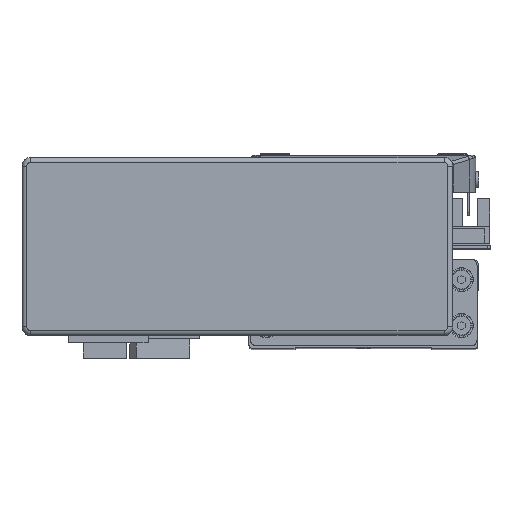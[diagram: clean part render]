
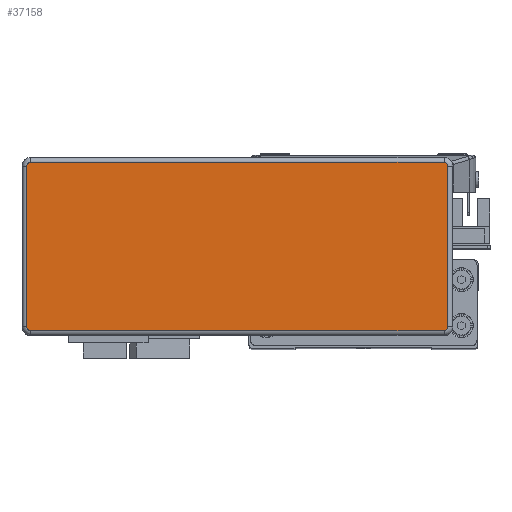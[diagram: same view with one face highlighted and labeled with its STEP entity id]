
A CAD part, top view. The second image highlights one B-rep face of the part: STEP entity #37158.
In plain terms, the highlighted planar face has unit normal (0, 0, 1) as drawn and (0, 0, -1) by its records, which use the part's own axes.
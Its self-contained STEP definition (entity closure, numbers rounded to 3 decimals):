
#6052 = EDGE_LOOP ( 'NONE', ( #39303, #39271, #39237, #39312, #39227, #39280, #39314, #39309 ) ) ;
#6798 = AXIS2_PLACEMENT_3D ( 'NONE', #31263, #31287, #31283 ) ;
#7883 = AXIS2_PLACEMENT_3D ( 'NONE', #35943, #35955, #35969 ) ;
#7887 = AXIS2_PLACEMENT_3D ( 'NONE', #36101, #36073, #36074 ) ;
#7895 = AXIS2_PLACEMENT_3D ( 'NONE', #35933, #35904, #35914 ) ;
#7922 = AXIS2_PLACEMENT_3D ( 'NONE', #36002, #36009, #36020 ) ;
#12139 = VERTEX_POINT ( 'NONE', #17280 ) ;
#12141 = VERTEX_POINT ( 'NONE', #17287 ) ;
#12159 = VERTEX_POINT ( 'NONE', #17311 ) ;
#12191 = VERTEX_POINT ( 'NONE', #17336 ) ;
#12193 = VERTEX_POINT ( 'NONE', #17331 ) ;
#12195 = VERTEX_POINT ( 'NONE', #17342 ) ;
#12288 = VERTEX_POINT ( 'NONE', #17398 ) ;
#12313 = VERTEX_POINT ( 'NONE', #16772 ) ;
#16772 = CARTESIAN_POINT ( 'NONE',  ( 71.995, -29.295, -32.2 ) ) ;
#17280 = CARTESIAN_POINT ( 'NONE',  ( -71.995, -29.295, -32.2 ) ) ;
#17287 = CARTESIAN_POINT ( 'NONE',  ( -73.295, 27.995, -32.2 ) ) ;
#17311 = CARTESIAN_POINT ( 'NONE',  ( 73.295, 27.995, -32.2 ) ) ;
#17331 = CARTESIAN_POINT ( 'NONE',  ( -71.995, 29.295, -32.2 ) ) ;
#17336 = CARTESIAN_POINT ( 'NONE',  ( 73.295, -27.995, -32.2 ) ) ;
#17342 = CARTESIAN_POINT ( 'NONE',  ( -73.295, -27.995, -32.2 ) ) ;
#17398 = CARTESIAN_POINT ( 'NONE',  ( 71.995, 29.295, -32.2 ) ) ;
#30224 = FACE_OUTER_BOUND ( 'NONE', #6052, .T. ) ;
#31211 = PLANE ( 'NONE',  #6798 ) ;
#31263 = CARTESIAN_POINT ( 'NONE',  ( 71.995, -27.995, -32.2 ) ) ;
#31283 = DIRECTION ( 'NONE',  ( 1., 0., 0. ) ) ;
#31287 = DIRECTION ( 'NONE',  ( 0., 0., 1. ) ) ;
#35521 = VECTOR ( 'NONE', #35913, 1000. ) ;
#35529 = LINE ( 'NONE', #35907, #35521 ) ;
#35541 = CIRCLE ( 'NONE', #7895, 1.3 ) ;
#35543 = CIRCLE ( 'NONE', #7883, 1.3 ) ;
#35562 = LINE ( 'NONE', #35986, #35601 ) ;
#35566 = LINE ( 'NONE', #36000, #35570 ) ;
#35570 = VECTOR ( 'NONE', #36017, 1000. ) ;
#35576 = CIRCLE ( 'NONE', #7922, 1.3 ) ;
#35600 = CIRCLE ( 'NONE', #7887, 1.3 ) ;
#35601 = VECTOR ( 'NONE', #36013, 1000. ) ;
#35608 = LINE ( 'NONE', #36011, #35609 ) ;
#35609 = VECTOR ( 'NONE', #35982, 1000. ) ;
#35904 = DIRECTION ( 'NONE',  ( 0., 0., -1. ) ) ;
#35907 = CARTESIAN_POINT ( 'NONE',  ( 73.295, -27.995, -32.2 ) ) ;
#35913 = DIRECTION ( 'NONE',  ( 0., -1., 0. ) ) ;
#35914 = DIRECTION ( 'NONE',  ( 1., 0., 0. ) ) ;
#35933 = CARTESIAN_POINT ( 'NONE',  ( -71.995, 27.995, -32.2 ) ) ;
#35943 = CARTESIAN_POINT ( 'NONE',  ( 71.995, 27.995, -32.2 ) ) ;
#35955 = DIRECTION ( 'NONE',  ( 0., 0., -1. ) ) ;
#35969 = DIRECTION ( 'NONE',  ( 1., 0., 0. ) ) ;
#35982 = DIRECTION ( 'NONE',  ( 0., 1., 0. ) ) ;
#35986 = CARTESIAN_POINT ( 'NONE',  ( 71.995, -29.295, -32.2 ) ) ;
#36000 = CARTESIAN_POINT ( 'NONE',  ( 71.995, 29.295, -32.2 ) ) ;
#36002 = CARTESIAN_POINT ( 'NONE',  ( -71.995, -27.995, -32.2 ) ) ;
#36009 = DIRECTION ( 'NONE',  ( 0., 0., -1. ) ) ;
#36011 = CARTESIAN_POINT ( 'NONE',  ( -73.295, -27.995, -32.2 ) ) ;
#36013 = DIRECTION ( 'NONE',  ( -1., 0., 0. ) ) ;
#36017 = DIRECTION ( 'NONE',  ( 1., 0., 0. ) ) ;
#36020 = DIRECTION ( 'NONE',  ( 1., 0., 0. ) ) ;
#36073 = DIRECTION ( 'NONE',  ( 0., 0., -1. ) ) ;
#36074 = DIRECTION ( 'NONE',  ( 1., 0., 0. ) ) ;
#36101 = CARTESIAN_POINT ( 'NONE',  ( 71.995, -27.995, -32.2 ) ) ;
#37158 = ADVANCED_FACE ( 'NONE', ( #30224 ), #31211, .F. ) ;
#39227 = ORIENTED_EDGE ( 'NONE', *, *, #41174, .T. ) ;
#39237 = ORIENTED_EDGE ( 'NONE', *, *, #41178, .T. ) ;
#39271 = ORIENTED_EDGE ( 'NONE', *, *, #41202, .T. ) ;
#39280 = ORIENTED_EDGE ( 'NONE', *, *, #41141, .T. ) ;
#39303 = ORIENTED_EDGE ( 'NONE', *, *, #41147, .T. ) ;
#39309 = ORIENTED_EDGE ( 'NONE', *, *, #41154, .T. ) ;
#39312 = ORIENTED_EDGE ( 'NONE', *, *, #41176, .T. ) ;
#39314 = ORIENTED_EDGE ( 'NONE', *, *, #41173, .T. ) ;
#41141 = EDGE_CURVE ( 'NONE', #12141, #12193, #35541, .T. ) ;
#41147 = EDGE_CURVE ( 'NONE', #12159, #12191, #35529, .T. ) ;
#41154 = EDGE_CURVE ( 'NONE', #12288, #12159, #35543, .T. ) ;
#41173 = EDGE_CURVE ( 'NONE', #12193, #12288, #35566, .T. ) ;
#41174 = EDGE_CURVE ( 'NONE', #12195, #12141, #35608, .T. ) ;
#41176 = EDGE_CURVE ( 'NONE', #12139, #12195, #35576, .T. ) ;
#41178 = EDGE_CURVE ( 'NONE', #12313, #12139, #35562, .T. ) ;
#41202 = EDGE_CURVE ( 'NONE', #12191, #12313, #35600, .T. ) ;
